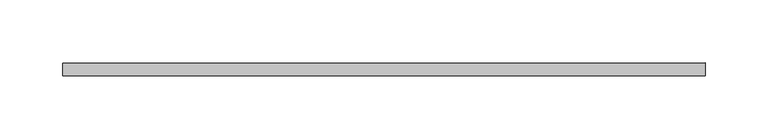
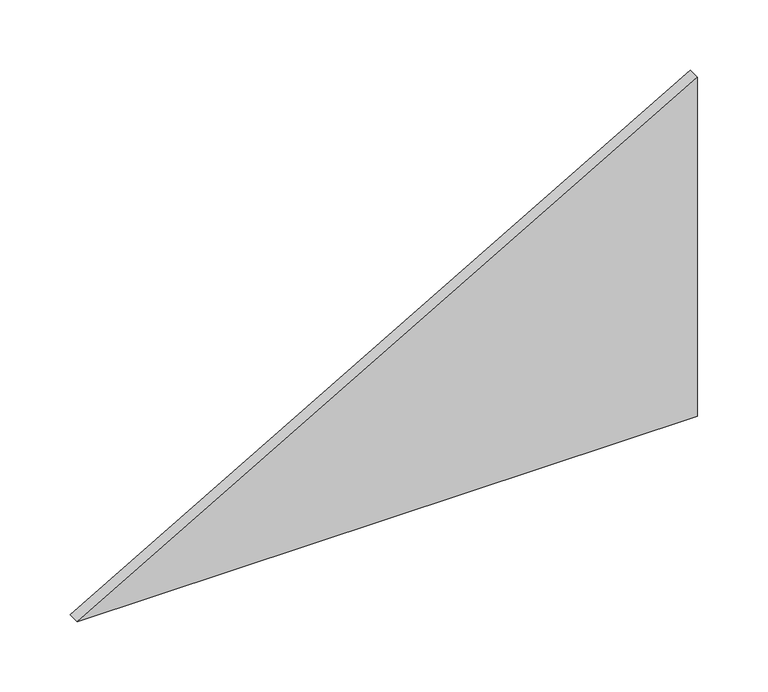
"""IFC4 building model written with IfcOpenShell, lengths in millimetres: plate geometry, 系統嵌板 : 玻璃 1.0cm."""

from ifc_helpers import new_model, si_unit, frame, origin, place, context, project, spatial, polyline, outline, extrude, source, transform, mapped, element, save


def plate_5158de34(model_context):
    return source(origin(), model_context, "Body", "SweptSolid", [
        extrude(outline(polyline([(0.0, -254.8094716), (0.0, 254.8094716), (294.2286341, 254.8094716), (0.0, -254.8094716)])), frame((0.0, -5.0, 0.0), z_axis=(0.0, 1.0, 0.0), x_axis=(0.0, 0.0, 1.0)), (0.0, 0.0, 1.0), 10.0),
    ])


if __name__ == "__main__":
    model = new_model("IFC4")
    model_context = context("Model", 3, world=origin())
    ifc_project = project(units=[si_unit("LENGTHUNIT", "METRE", prefix="MILLI")], contexts=[model_context])
    site = spatial("IfcSite", under=ifc_project)
    building = spatial("IfcBuilding", under=site)
    placement = place(None, origin())
    plate_shape = plate_5158de34(model_context)
    element("IfcPlate", 1, ObjectType="系統嵌板 : 玻璃 1.0cm", at=placement, inside=building, context=model_context, shape_type="MappedRepresentation", body=[
        mapped(plate_shape, transform((0.0, 0.0, 0.0), x_axis=(1.0, 0.0, 0.0), y_axis=(0.0, 1.0, 0.0), z_axis=(0.0, 0.0, 1.0))),
    ])
    save(model, "model.ifc")
